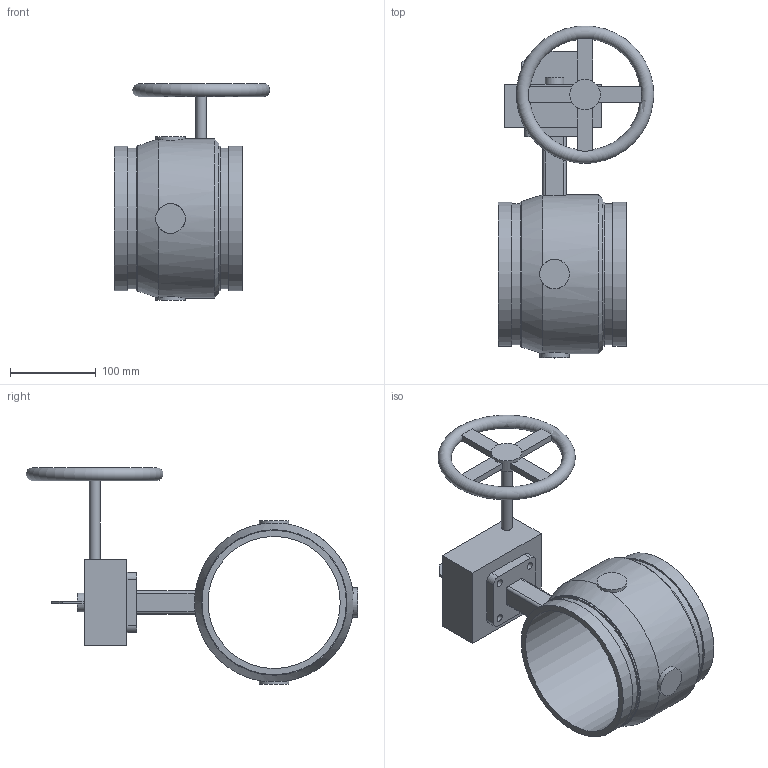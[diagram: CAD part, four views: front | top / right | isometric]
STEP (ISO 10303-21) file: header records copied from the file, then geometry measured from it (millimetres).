
FILE_DESCRIPTION(/* description */ ('VIC FP VALVE BUTTERFLY HP SERIES 766 (OGS)'),/* implementation_level */ '2;1');
FILE_NAME(/* name */ 'C:\Files for Export\766\Victaulic_EU_FP_Vlv Btfl HP_Series 766 (OGS)\Victaulic_EU_FP_Vlv Btfl HP_Series 766 (OGS)_6 (150).stp',/* time_stamp */ '2024-06-27T12:47:00+02:00',/* author */ ('cps_temp'),/* organization */ ('Victaulic'),/* preprocessor_version */ 'ST-DEVELOPER v18.1',/* originating_system */ 'Autodesk Inventor 2020',/* authorisation */ '');
FILE_SCHEMA (('AUTOMOTIVE_DESIGN { 1 0 10303 214 3 1 1 }'));
Length unit declared in the file: inch
Products named in the file (1): 766-06.0
Bounding box: 181.1 x 386.51 x 252.73 mm (x, y, z)
Volume: 1720546.1 mm3; surface area: 274997.3 mm2
Topology: 1 solids, 2 shells, 91 faces, 243 edges, 166 vertices
Faces by surface type: plane 59, cylinder 29, cone 2, torus 1
Full cylindrical faces by diameter (mm): 8.636 x4, 12.7 x2, 34.392 x3, 35.56 x1, 55.118 x1, 154.051 x1, 163.957 x2, 168.275 x4, 185.42 x1
Entity records: 3387 total; most frequent: CARTESIAN_POINT 866, DIRECTION 496, ORIENTED_EDGE 486, EDGE_CURVE 243, AXIS2_PLACEMENT_3D 191, VERTEX_POINT 166, LINE 114, VECTOR 114
